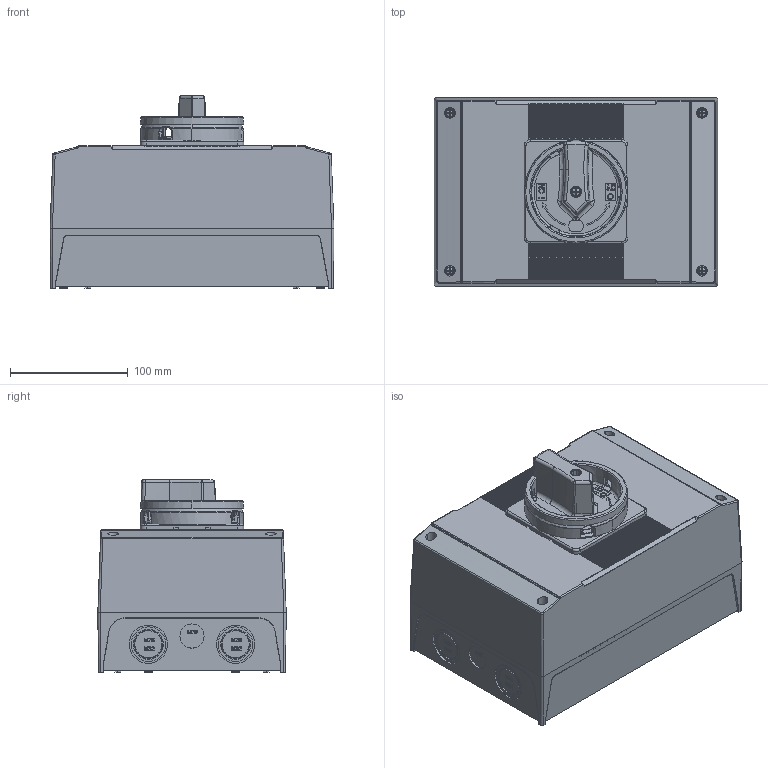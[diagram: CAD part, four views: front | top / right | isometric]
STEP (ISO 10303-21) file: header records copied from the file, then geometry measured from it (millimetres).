
FILE_DESCRIPTION (( 'STEP AP203' ), '1' );
FILE_NAME ('ukp5-軞蚾芞拸郋赽.STEP', '2025-08-07T02:33:40', ( 'Windows User' ), ( 'P R C' ), 'SwSTEP 2.0', 'SolidWorks 2019', '' );
FILE_SCHEMA (( 'CONFIG_CONTROL_DESIGN' ));
Length unit declared in the file: millimetre
Products named in the file (17): 0001^ukp5-20230824-_ukp5-軞蚾芞; UKP5-40001^ukp5-20230824-_ukp5-軞蚾芞; UKP5-A000^ukp5-20230824-_ukp5-軞蚾芞; UKP5-000^ukp5-20230824-_ukp5-軞蚾芞; UKT5M400^ukp5-20230824-_ukp5-軞蚾芞; P5-DIKE-^ukp5-20230824-_ukp5-軞蚾芞; UKT5-000^ukp5-20230824-_ukp5-軞蚾芞; ukp5-軞蚾芞拸郋赽; ST4-9^ukp5-20230824-_ukp5-軞蚾芞; ukp5-20230824-^ukp5-軞蚾芞; _UKT50001^ukp5-20230824-_ukp5-軞蚾芞; UKP5-00-6^ukp5-20230824-_ukp5-軞蚾芞; UKP5-_AF100^ukp5-20230824-_ukp5-軞蚾芞; UKP5-SHOUBINXIN^ukp5-20230824-_ukp5-軞蚾芞; 2016-10-11-UKP5-1^ukp5-20230824-_ukp5-軞蚾芞; UKP5-0005^ukp5-20230824-_ukp5-軞蚾芞; UKP5-000-5^ukp5-20230824-_ukp5-軞蚾芞
Assembly tree (23 placements, depth 3):
  ukp5-軞蚾芞拸郋赽
    ukp5-20230824-^ukp5-軞蚾芞
      P5-DIKE-^ukp5-20230824-_ukp5-軞蚾芞
      2016-10-11-UKP5-1^ukp5-20230824-_ukp5-軞蚾芞
      UKP5-000^ukp5-20230824-_ukp5-軞蚾芞
      UKT5-000^ukp5-20230824-_ukp5-軞蚾芞
      UKP5-000-5^ukp5-20230824-_ukp5-軞蚾芞
      UKP5-A000^ukp5-20230824-_ukp5-軞蚾芞
      UKP5-40001^ukp5-20230824-_ukp5-軞蚾芞
      UKP5-_AF100^ukp5-20230824-_ukp5-軞蚾芞
      0001^ukp5-20230824-_ukp5-軞蚾芞  x4
      UKT5M400^ukp5-20230824-_ukp5-軞蚾芞
      UKP5-SHOUBINXIN^ukp5-20230824-_ukp5-軞蚾芞
      UKP5-00-6^ukp5-20230824-_ukp5-軞蚾芞
      ST4-9^ukp5-20230824-_ukp5-軞蚾芞
      UKP5-0005^ukp5-20230824-_ukp5-軞蚾芞  x2
      _UKT50001^ukp5-20230824-_ukp5-軞蚾芞  x4
Bounding box: 241 x 160 x 163.86 mm (x, y, z)
Volume: 630888.2 mm3; surface area: 511746.3 mm2
Topology: 22 solids, 22 shells, 5922 faces, 15939 edges, 10322 vertices
Faces by surface type: plane 3554, cylinder 1205, bspline 463, cone 350, torus 294, sphere 56
Entity records: 210165 total; most frequent: CARTESIAN_POINT 68439, ORIENTED_EDGE 30782, DIRECTION 26482, EDGE_CURVE 15391, VECTOR 10150, LINE 10150, VERTEX_POINT 9982, AXIS2_PLACEMENT_3D 8166
